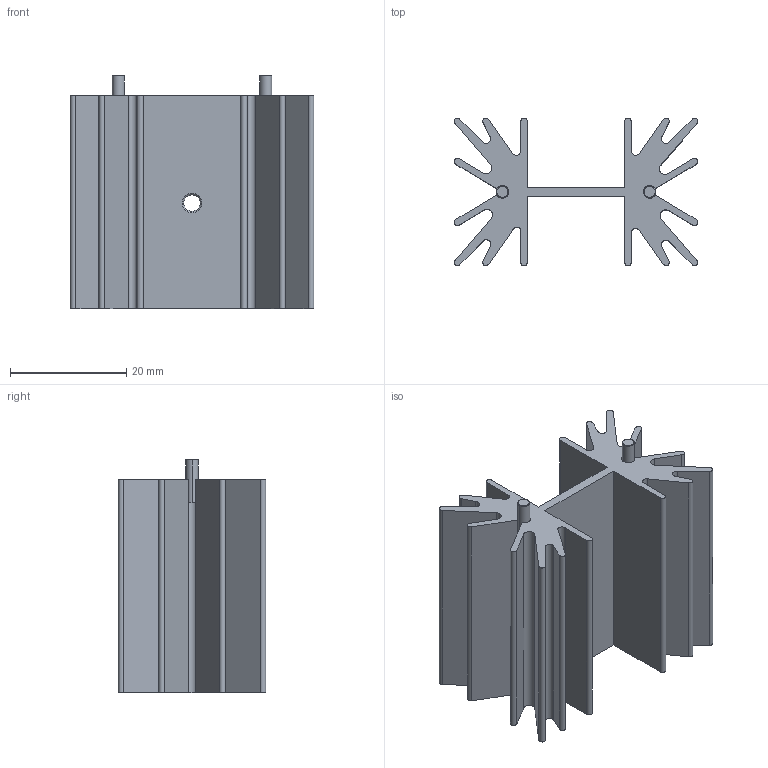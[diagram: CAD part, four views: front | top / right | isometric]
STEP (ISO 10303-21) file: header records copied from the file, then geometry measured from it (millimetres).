
FILE_DESCRIPTION(('STEP AP214'),'1');
FILE_NAME('RX580-031-00.stp','2022-09-21T01:53:41',(' '),(' '),'Spatial InterOp 3D',' ',' ');
FILE_SCHEMA(('AUTOMOTIVE_DESIGN { 1 0 10303 214 1 1 1 1 }'));
Length unit declared in the file: metre
Products named in the file (1): 实体
Bounding box: 41.91 x 25.4 x 40.19 mm (x, y, z)
Volume: 12606.1 mm3; surface area: 12489.6 mm2
Topology: 3 solids, 3 shells, 87 faces, 237 edges, 156 vertices
Faces by surface type: plane 41, cylinder 40, cone 4, torus 2
Entity records: 2824 total; most frequent: DIRECTION 505, CARTESIAN_POINT 483, ORIENTED_EDGE 474, EDGE_CURVE 237, AXIS2_PLACEMENT_3D 178, VERTEX_POINT 156, LINE 149, VECTOR 149
